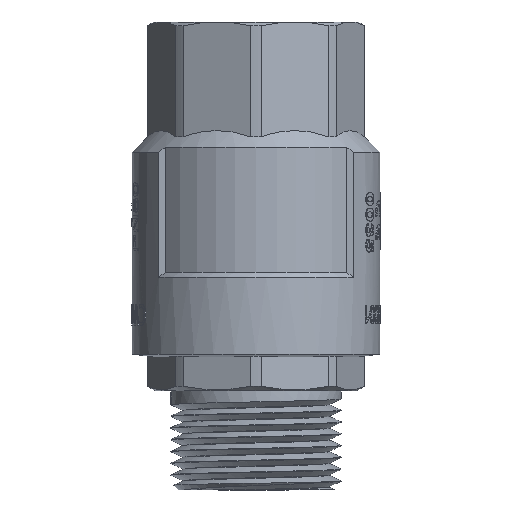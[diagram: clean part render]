
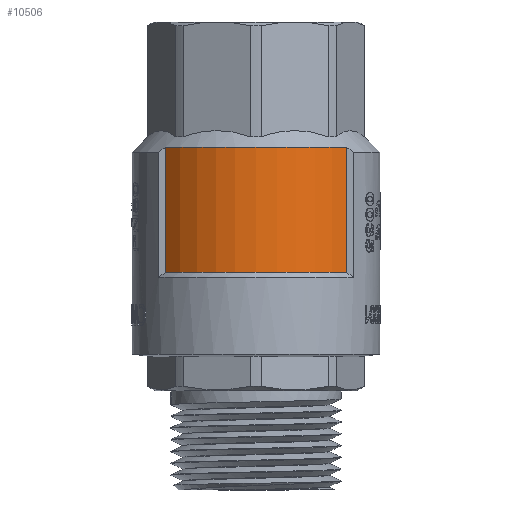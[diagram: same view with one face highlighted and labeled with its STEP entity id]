
A CAD part, front view. The second image highlights one B-rep face of the part: STEP entity #10506.
In plain terms, the highlighted cylindrical face has radius 23.25 mm (diameter 46.5 mm), a partial arc.
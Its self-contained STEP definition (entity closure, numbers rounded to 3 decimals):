
#678=CIRCLE('',#11046,23.25);
#680=CIRCLE('',#11050,23.25);
#1560=FACE_OUTER_BOUND('',#2240,.T.);
#2240=EDGE_LOOP('',(#9266,#9267,#9268,#9269));
#3428=LINE('',#28167,#4117);
#3429=LINE('',#28170,#4118);
#4117=VECTOR('',#12635,10.);
#4118=VECTOR('',#12638,10.);
#5082=VERTEX_POINT('',#28143);
#5083=VERTEX_POINT('',#28147);
#5086=VERTEX_POINT('',#28166);
#5087=VERTEX_POINT('',#28168);
#6516=EDGE_CURVE('',#5082,#5083,#678,.T.);
#6521=EDGE_CURVE('',#5082,#5086,#3428,.T.);
#6522=EDGE_CURVE('',#5086,#5087,#680,.T.);
#6523=EDGE_CURVE('',#5087,#5083,#3429,.T.);
#9266=ORIENTED_EDGE('',*,*,#6521,.T.);
#9267=ORIENTED_EDGE('',*,*,#6522,.T.);
#9268=ORIENTED_EDGE('',*,*,#6523,.T.);
#9269=ORIENTED_EDGE('',*,*,#6516,.F.);
#10015=CYLINDRICAL_SURFACE('',#11049,23.25);
#10506=ADVANCED_FACE('',(#1560),#10015,.T.);
#11046=AXIS2_PLACEMENT_3D('',#28148,#12627,#12628);
#11049=AXIS2_PLACEMENT_3D('',#28165,#12633,#12634);
#11050=AXIS2_PLACEMENT_3D('',#28169,#12636,#12637);
#12627=DIRECTION('center_axis',(0.,0.,-1.));
#12628=DIRECTION('ref_axis',(1.,0.,0.));
#12633=DIRECTION('center_axis',(0.,0.,-1.));
#12634=DIRECTION('ref_axis',(0.,-1.,0.));
#12635=DIRECTION('',(0.,0.,1.));
#12636=DIRECTION('center_axis',(0.,0.,-1.));
#12637=DIRECTION('ref_axis',(1.,0.,0.));
#12638=DIRECTION('',(0.,0.,-1.));
#28143=CARTESIAN_POINT('',(17.764,-15.,-7.));
#28147=CARTESIAN_POINT('',(-17.764,-15.,-7.));
#28148=CARTESIAN_POINT('Origin',(0.,0.,-7.));
#28165=CARTESIAN_POINT('Origin',(0.,0.,5.25));
#28166=CARTESIAN_POINT('',(17.764,-15.,17.5));
#28167=CARTESIAN_POINT('',(17.764,-15.,5.25));
#28168=CARTESIAN_POINT('',(-17.764,-15.,17.5));
#28169=CARTESIAN_POINT('Origin',(0.,0.,17.5));
#28170=CARTESIAN_POINT('',(-17.764,-15.,5.25));
